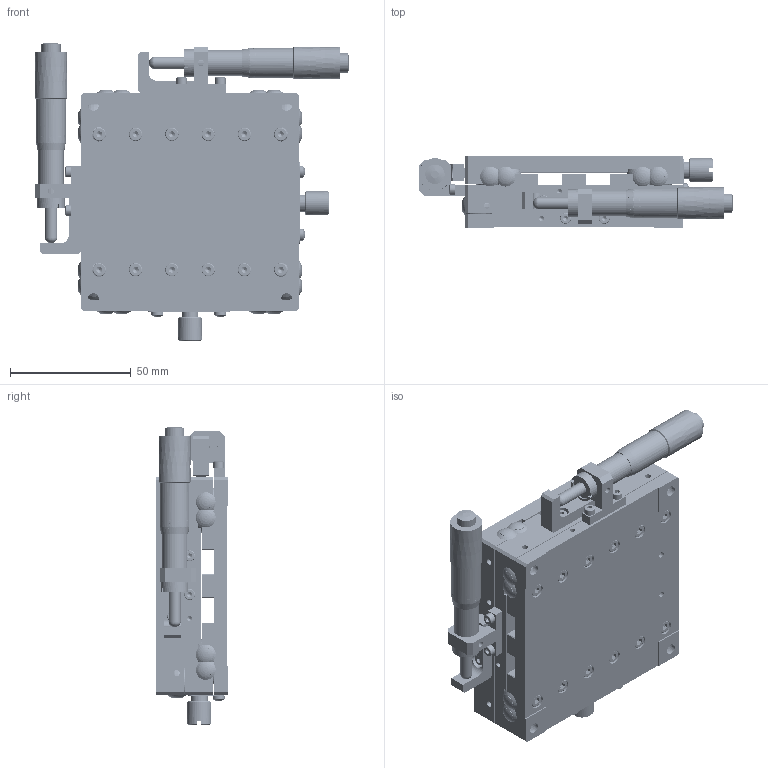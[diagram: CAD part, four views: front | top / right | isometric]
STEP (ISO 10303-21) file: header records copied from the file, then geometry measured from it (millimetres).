
FILE_DESCRIPTION (( 'STEP AP203' ), '1' );
FILE_NAME ('BPMB90.STEP', '2024-07-25T07:30:48', ( 'Windows User' ), ( 'P R C' ), 'SwSTEP 2.0', 'SolidWorks 2024', '' );
FILE_SCHEMA (( 'CONFIG_CONTROL_DESIGN' ));
Products named in the file (1): BPMB90
Bounding box: 129.95 x 30 x 123.3 mm (x, y, z)
Volume: 204152.7 mm3; surface area: 133290.8 mm2
Topology: 65 solids, 65 shells, 4173 faces, 10563 edges, 6780 vertices
Faces by surface type: plane 1656, bspline 1130, cylinder 779, cone 552, torus 50, sphere 6
Full cylindrical faces by diameter (mm): 1 x8, 1.6 x12, 2 x64, 2.05 x28, 2.5 x28, 2.55 x48, 3 x28, 3.1 x4, 3.2 x4, 3.3 x17, 3.4 x36, 4.4 x48, 4.5 x12, 5 x8, 5.5 x24, 5.8 x4, 6 x36, 7 x2, 8 x8, 8.1 x2, 9 x2, 9.5 x4, 10 x2, 10.373 x2, 11.5 x2, 12.25 x2, 13.3 x2
Entity records: 209993 total; most frequent: CARTESIAN_POINT 124452, ORIENTED_EDGE 19080, DIRECTION 13018, EDGE_CURVE 9540, VERTEX_POINT 6604, EDGE_LOOP 5838, AXIS2_PLACEMENT_3D 4820, FACE_OUTER_BOUND 4650
